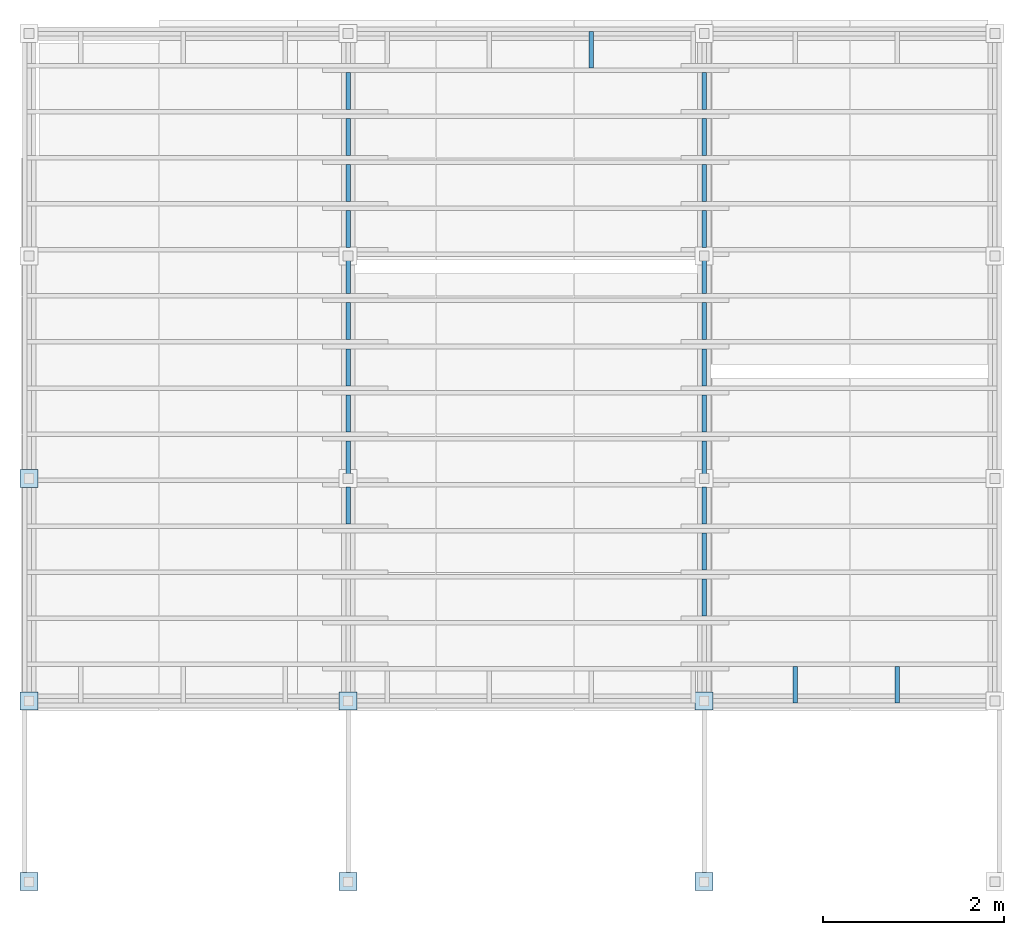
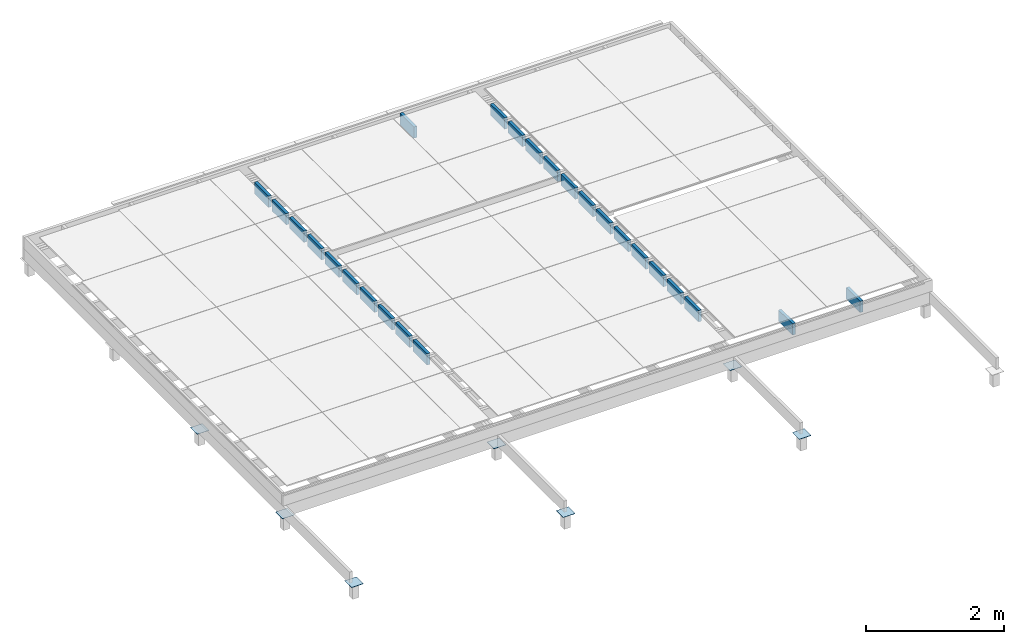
# One storey, part 2 of 5: 25 beams, 7 slabs, 7 elements without a shape of their own.
"""IFC4 building model written with IfcOpenShell, lengths in millimetres."""

from ifc_helpers import new_model, si_unit, derived_unit, frame, origin_with_axes, place, context, subcontext, project, spatial, polygons, source, transform, mapped, material, constituent, constituent_set, type_object, element, aggregate, save


model = new_model("IFC4")

# Units and contexts
model_context = context("Model", 3, precision=1e-06, world=origin_with_axes())
body_context = subcontext(model_context, "Body", "Model", "MODEL_VIEW")
ifc_project = project(units=[si_unit("LENGTHUNIT", "METRE", prefix="MILLI"), si_unit("AREAUNIT", "SQUARE_METRE"), si_unit("VOLUMEUNIT", "CUBIC_METRE"), si_unit("MASSUNIT", "GRAM", prefix="KILO"), si_unit("ELECTRICVOLTAGEUNIT", "VOLT", prefix="KILO"), si_unit("THERMODYNAMICTEMPERATUREUNIT", "DEGREE_CELSIUS"), si_unit("PRESSUREUNIT", "PASCAL", prefix="MEGA"), si_unit("PLANEANGLEUNIT", "RADIAN"), derived_unit("THERMALCONDUCTANCEUNIT", [(si_unit("POWERUNIT", "WATT"), 1), (si_unit("LENGTHUNIT", "METRE"), -1), (si_unit("THERMODYNAMICTEMPERATUREUNIT", "KELVIN"), -1)]), derived_unit("MASSDENSITYUNIT", [(si_unit("MASSUNIT", "GRAM", prefix="KILO"), 1), (si_unit("VOLUMEUNIT", "CUBIC_METRE"), -1)])], contexts=[model_context])

# Site, building, storey
site_placement = place(None, origin_with_axes())
site = spatial("IfcSite", under=ifc_project, at=site_placement, CompositionType="ELEMENT")
building_placement = place(site_placement, origin_with_axes())
building = spatial("IfcBuilding", under=site, at=building_placement, CompositionType="ELEMENT")
storey_placement = place(building_placement, origin_with_axes())
storey = spatial("IfcBuildingStorey", under=building, at=storey_placement, Name="Ниже 0.00", CompositionType="ELEMENT", Elevation=0.0)

# Beams
ifc_material_1 = material(Name="Древесина зел")
beam_type = type_object("IfcBeamType", Name="Доска 50х200", PredefinedType="BEAM")
shared_shape_1 = source(origin_with_axes(), body_context, "Body", "Tessellation", [
    polygons([(9665.000000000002, 454.99999999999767, -2e-15), (9665.000000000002, 454.99999999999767, -200.0), (9665.000000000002, 50.000000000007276, -200.0), (9665.000000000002, 50.000000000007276, -2e-15), (9715.000000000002, 454.9999999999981, 1e-15), (9715.000000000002, 50.000000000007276, 2e-15), (9715.000000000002, 454.99999999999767, -200.0), (9715.000000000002, 50.000000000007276, -200.0)], [[[1, 2, 3, 4]], [[5, 1, 4, 6]], [[7, 5, 6, 8]], [[2, 7, 8, 3]], [[7, 2, 1, 5]], [[3, 8, 6, 4]]], closed=True),
])
beam_1_placement = place(storey_placement, frame((9690.000000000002, 454.9999999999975, 0.0), z_axis=(0.0, 1.0, 0.0), x_axis=(0.0, 0.0, 1.0)))
element("IfcBeam", 1, at=beam_1_placement, inside=storey, type_object=beam_type, material=ifc_material_1, Name="Балка - Доска 50х200", context=body_context, shape_type="MappedRepresentation", body=[
    mapped(shared_shape_1, transform((5.93e-13, -9690.000000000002, -454.9999999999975), x_axis=(0.0, 1.0, 0.0), y_axis=(0.0, 0.0, 1.0), z_axis=(1.0, 0.0, 0.0), scale=1.0)),
])
shared_shape_2 = source(origin_with_axes(), body_context, "Body", "Tessellation", [
    polygons([(8535.000000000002, 454.99999999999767, -2e-15), (8535.000000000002, 454.99999999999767, -200.0), (8535.000000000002, 50.000000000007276, -200.0), (8535.000000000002, 50.000000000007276, -2e-15), (8585.000000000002, 454.9999999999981, 1e-15), (8585.000000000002, 50.000000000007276, 2e-15), (8585.000000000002, 454.99999999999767, -200.0), (8585.000000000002, 50.000000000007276, -200.0)], [[[1, 2, 3, 4]], [[5, 1, 4, 6]], [[7, 5, 6, 8]], [[2, 7, 8, 3]], [[7, 2, 1, 5]], [[3, 8, 6, 4]]], closed=True),
])
beam_2_placement = place(storey_placement, frame((8560.000000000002, 454.9999999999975, 0.0), z_axis=(0.0, 1.0, 0.0), x_axis=(0.0, 0.0, 1.0)))
element("IfcBeam", 2, at=beam_2_placement, inside=storey, type_object=beam_type, material=ifc_material_1, Name="Балка - Доска 50х200", context=body_context, shape_type="MappedRepresentation", body=[
    mapped(shared_shape_2, transform((5.24e-13, -8560.000000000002, -454.9999999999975), x_axis=(0.0, 1.0, 0.0), y_axis=(0.0, 0.0, 1.0), z_axis=(1.0, 0.0, 0.0), scale=1.0)),
])
shared_shape_3 = source(origin_with_axes(), body_context, "Body", "Tessellation", [
    polygons([(25.0, -200.0, 0.0), (-25.0, -200.0, 0.0), (-25.0, -200.0, -404.9999999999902), (25.0, -200.0, -404.9999999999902), (-25.0, 2e-15, 0.0), (-25.0, 2e-15, -404.9999999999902), (25.0, -2e-15, 0.0), (25.0, -2e-15, -404.9999999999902)], [[[1, 2, 3, 4]], [[2, 5, 6, 3]], [[5, 7, 8, 6]], [[7, 1, 4, 8]], [[4, 3, 6, 8]], [[1, 7, 5, 2]]], closed=True),
])
beam_3_placement = place(storey_placement, frame((6300.000000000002, 7489.999999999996, 0.0), z_axis=(0.0, 1.0, 0.0), x_axis=(0.0, 0.0, 1.0)))
element("IfcBeam", 3, at=beam_3_placement, inside=storey, type_object=beam_type, material=ifc_material_1, Name="Балка - Доска 50х200", context=body_context, shape_type="MappedRepresentation", body=[
    mapped(shared_shape_3, transform((0.0, 0.0, 0.0), x_axis=(0.0, -1.0, 0.0), y_axis=(1.0, 0.0, 0.0), z_axis=(0.0, 0.0, 1.0), scale=1.0)),
])
shared_shape_4 = source(origin_with_axes(), body_context, "Body", "Tessellation", [
    polygons([(7525.0000000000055, 7034.999999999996, -2e-15), (7525.0000000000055, 7034.999999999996, -200.0), (7525.0000000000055, 6624.999999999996, -200.0), (7525.0000000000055, 6624.999999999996, -2e-15), (7575.0000000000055, 7034.999999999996, 1e-15), (7575.0000000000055, 6624.999999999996, 2e-15), (7575.0000000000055, 7034.999999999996, -200.0), (7575.0000000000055, 6624.999999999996, -200.0)], [[[1, 2, 3, 4]], [[5, 1, 4, 6]], [[7, 5, 6, 8]], [[2, 7, 8, 3]], [[7, 2, 1, 5]], [[3, 8, 6, 4]]], closed=True),
])
beam_4_placement = place(storey_placement, frame((7550.0000000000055, 7034.999999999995, 2e-15), z_axis=(0.0, 1.0, 0.0), x_axis=(0.0, 0.0, 1.0)))
element("IfcBeam", 4, at=beam_4_placement, inside=storey, type_object=beam_type, material=ifc_material_1, Name="Балка - Доска 50х200", context=body_context, shape_type="MappedRepresentation", body=[
    mapped(shared_shape_4, transform((4.87e-13, -7550.0000000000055, -7034.999999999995), x_axis=(0.0, 1.0, 0.0), y_axis=(0.0, 0.0, 1.0), z_axis=(1.0, 0.0, 0.0), scale=1.0)),
])
shared_shape_5 = source(origin_with_axes(), body_context, "Body", "Tessellation", [
    polygons([(3582.5000000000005, 7034.999999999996, -3e-15), (3582.5000000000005, 7034.999999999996, -200.0), (3582.5000000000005, 6624.999999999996, -200.0), (3582.5000000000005, 6624.999999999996, -2e-15), (3632.5000000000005, 7034.999999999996, 0.0), (3632.5000000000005, 6624.999999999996, 2e-15), (3632.5000000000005, 7034.999999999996, -200.0), (3632.5000000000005, 6624.999999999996, -200.0)], [[[1, 2, 3, 4]], [[5, 1, 4, 6]], [[7, 5, 6, 8]], [[2, 7, 8, 3]], [[7, 2, 1, 5]], [[3, 8, 6, 4]]], closed=True),
])
beam_5_placement = place(storey_placement, frame((3607.5000000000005, 7034.999999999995, 0.0), z_axis=(0.0, 1.0, 0.0), x_axis=(0.0, 0.0, 1.0)))
element("IfcBeam", 5, at=beam_5_placement, inside=storey, type_object=beam_type, material=ifc_material_1, Name="Балка - Доска 50х200", context=body_context, shape_type="MappedRepresentation", body=[
    mapped(shared_shape_5, transform((2.21e-13, -3607.5000000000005, -7034.999999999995), x_axis=(0.0, 1.0, 0.0), y_axis=(0.0, 0.0, 1.0), z_axis=(1.0, 0.0, 0.0), scale=1.0)),
])
shared_shape_6 = source(origin_with_axes(), body_context, "Body", "Tessellation", [
    polygons([(7525.0000000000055, 6524.999999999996, -2e-15), (7525.0000000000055, 6524.999999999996, -200.0), (7525.0000000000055, 6114.999999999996, -200.0), (7525.0000000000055, 6114.999999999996, -2e-15), (7575.0000000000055, 6524.999999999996, 1e-15), (7575.0000000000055, 6114.999999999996, 2e-15), (7575.0000000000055, 6524.999999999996, -200.0), (7575.0000000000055, 6114.999999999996, -200.0)], [[[1, 2, 3, 4]], [[5, 1, 4, 6]], [[7, 5, 6, 8]], [[2, 7, 8, 3]], [[7, 2, 1, 5]], [[3, 8, 6, 4]]], closed=True),
])
beam_6_placement = place(storey_placement, frame((7550.0000000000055, 6524.999999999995, 2e-15), z_axis=(0.0, 1.0, 0.0), x_axis=(0.0, 0.0, 1.0)))
element("IfcBeam", 6, at=beam_6_placement, inside=storey, type_object=beam_type, material=ifc_material_1, Name="Балка - Доска 50х200", context=body_context, shape_type="MappedRepresentation", body=[
    mapped(shared_shape_6, transform((4.85e-13, -7550.0000000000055, -6524.999999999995), x_axis=(0.0, 1.0, 0.0), y_axis=(0.0, 0.0, 1.0), z_axis=(1.0, 0.0, 0.0), scale=1.0)),
])
shared_shape_7 = source(origin_with_axes(), body_context, "Body", "Tessellation", [
    polygons([(3582.5000000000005, 6524.999999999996, -3e-15), (3582.5000000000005, 6524.999999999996, -200.0), (3582.5000000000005, 6114.999999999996, -200.0), (3582.5000000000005, 6114.999999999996, -2e-15), (3632.5000000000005, 6524.999999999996, 0.0), (3632.5000000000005, 6114.999999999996, 2e-15), (3632.5000000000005, 6524.999999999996, -200.0), (3632.5000000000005, 6114.999999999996, -200.0)], [[[1, 2, 3, 4]], [[5, 1, 4, 6]], [[7, 5, 6, 8]], [[2, 7, 8, 3]], [[7, 2, 1, 5]], [[3, 8, 6, 4]]], closed=True),
])
beam_7_placement = place(storey_placement, frame((3607.5000000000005, 6524.999999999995, 0.0), z_axis=(0.0, 1.0, 0.0), x_axis=(0.0, 0.0, 1.0)))
element("IfcBeam", 7, at=beam_7_placement, inside=storey, type_object=beam_type, material=ifc_material_1, Name="Балка - Доска 50х200", context=body_context, shape_type="MappedRepresentation", body=[
    mapped(shared_shape_7, transform((2.21e-13, -3607.5000000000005, -6524.999999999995), x_axis=(0.0, 1.0, 0.0), y_axis=(0.0, 0.0, 1.0), z_axis=(1.0, 0.0, 0.0), scale=1.0)),
])
shared_shape_8 = source(origin_with_axes(), body_context, "Body", "Tessellation", [
    polygons([(7525.0000000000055, 6014.999999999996, -2e-15), (7525.0000000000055, 6014.999999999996, -200.0), (7525.0000000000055, 5604.999999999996, -200.0), (7525.0000000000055, 5604.999999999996, -2e-15), (7575.0000000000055, 6014.999999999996, 1e-15), (7575.0000000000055, 5604.999999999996, 2e-15), (7575.0000000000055, 6014.999999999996, -200.0), (7575.0000000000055, 5604.999999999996, -200.0)], [[[1, 2, 3, 4]], [[5, 1, 4, 6]], [[7, 5, 6, 8]], [[2, 7, 8, 3]], [[7, 2, 1, 5]], [[3, 8, 6, 4]]], closed=True),
])
beam_8_placement = place(storey_placement, frame((7550.0000000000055, 6014.999999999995, 2e-15), z_axis=(0.0, 1.0, 0.0), x_axis=(0.0, 0.0, 1.0)))
element("IfcBeam", 8, at=beam_8_placement, inside=storey, type_object=beam_type, material=ifc_material_1, Name="Балка - Доска 50х200", context=body_context, shape_type="MappedRepresentation", body=[
    mapped(shared_shape_8, transform((4.83e-13, -7550.0000000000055, -6014.999999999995), x_axis=(0.0, 1.0, 0.0), y_axis=(0.0, 0.0, 1.0), z_axis=(1.0, 0.0, 0.0), scale=1.0)),
])
shared_shape_9 = source(origin_with_axes(), body_context, "Body", "Tessellation", [
    polygons([(3582.5000000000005, 6014.999999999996, -3e-15), (3582.5000000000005, 6014.999999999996, -200.0), (3582.5000000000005, 5604.999999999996, -200.0), (3582.5000000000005, 5604.999999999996, -2e-15), (3632.5000000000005, 6014.999999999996, 0.0), (3632.5000000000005, 5604.999999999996, 2e-15), (3632.5000000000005, 6014.999999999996, -200.0), (3632.5000000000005, 5604.999999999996, -200.0)], [[[1, 2, 3, 4]], [[5, 1, 4, 6]], [[7, 5, 6, 8]], [[2, 7, 8, 3]], [[7, 2, 1, 5]], [[3, 8, 6, 4]]], closed=True),
])
beam_9_placement = place(storey_placement, frame((3607.5000000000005, 6014.999999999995, 0.0), z_axis=(0.0, 1.0, 0.0), x_axis=(0.0, 0.0, 1.0)))
element("IfcBeam", 9, at=beam_9_placement, inside=storey, type_object=beam_type, material=ifc_material_1, Name="Балка - Доска 50х200", context=body_context, shape_type="MappedRepresentation", body=[
    mapped(shared_shape_9, transform((2.21e-13, -3607.5000000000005, -6014.999999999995), x_axis=(0.0, 1.0, 0.0), y_axis=(0.0, 0.0, 1.0), z_axis=(1.0, 0.0, 0.0), scale=1.0)),
])
shared_shape_10 = source(origin_with_axes(), body_context, "Body", "Tessellation", [
    polygons([(7525.0000000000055, 5504.999999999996, -2e-15), (7525.0000000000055, 5504.999999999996, -200.0), (7525.0000000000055, 5094.999999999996, -200.0), (7525.0000000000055, 5094.999999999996, -2e-15), (7575.0000000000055, 5504.999999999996, 1e-15), (7575.0000000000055, 5094.999999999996, 2e-15), (7575.0000000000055, 5504.999999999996, -200.0), (7575.0000000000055, 5094.999999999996, -200.0)], [[[1, 2, 3, 4]], [[5, 1, 4, 6]], [[7, 5, 6, 8]], [[2, 7, 8, 3]], [[7, 2, 1, 5]], [[3, 8, 6, 4]]], closed=True),
])
beam_10_placement = place(storey_placement, frame((7550.0000000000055, 5504.999999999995, 2e-15), z_axis=(0.0, 1.0, 0.0), x_axis=(0.0, 0.0, 1.0)))
element("IfcBeam", 10, at=beam_10_placement, inside=storey, type_object=beam_type, material=ifc_material_1, Name="Балка - Доска 50х200", context=body_context, shape_type="MappedRepresentation", body=[
    mapped(shared_shape_10, transform((4.81e-13, -7550.0000000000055, -5504.999999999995), x_axis=(0.0, 1.0, 0.0), y_axis=(0.0, 0.0, 1.0), z_axis=(1.0, 0.0, 0.0), scale=1.0)),
])
shared_shape_11 = source(origin_with_axes(), body_context, "Body", "Tessellation", [
    polygons([(3582.5000000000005, 5504.999999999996, -3e-15), (3582.5000000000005, 5504.999999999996, -200.0), (3582.5000000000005, 5094.999999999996, -200.0), (3582.5000000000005, 5094.999999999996, -2e-15), (3632.5000000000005, 5504.999999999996, 0.0), (3632.5000000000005, 5094.999999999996, 2e-15), (3632.5000000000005, 5504.999999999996, -200.0), (3632.5000000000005, 5094.999999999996, -200.0)], [[[1, 2, 3, 4]], [[5, 1, 4, 6]], [[7, 5, 6, 8]], [[2, 7, 8, 3]], [[7, 2, 1, 5]], [[3, 8, 6, 4]]], closed=True),
])
beam_11_placement = place(storey_placement, frame((3607.5000000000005, 5504.999999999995, 0.0), z_axis=(0.0, 1.0, 0.0), x_axis=(0.0, 0.0, 1.0)))
element("IfcBeam", 11, at=beam_11_placement, inside=storey, type_object=beam_type, material=ifc_material_1, Name="Балка - Доска 50х200", context=body_context, shape_type="MappedRepresentation", body=[
    mapped(shared_shape_11, transform((2.21e-13, -3607.5000000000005, -5504.999999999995), x_axis=(0.0, 1.0, 0.0), y_axis=(0.0, 0.0, 1.0), z_axis=(1.0, 0.0, 0.0), scale=1.0)),
])
shared_shape_12 = source(origin_with_axes(), body_context, "Body", "Tessellation", [
    polygons([(7525.0000000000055, 4994.999999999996, -2e-15), (7525.0000000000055, 4994.999999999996, -200.0), (7525.0000000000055, 4584.999999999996, -200.0), (7525.0000000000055, 4584.999999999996, -2e-15), (7575.0000000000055, 4994.999999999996, 1e-15), (7575.0000000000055, 4584.999999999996, 2e-15), (7575.0000000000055, 4994.999999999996, -200.0), (7575.0000000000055, 4584.999999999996, -200.0)], [[[1, 2, 3, 4]], [[5, 1, 4, 6]], [[7, 5, 6, 8]], [[2, 7, 8, 3]], [[7, 2, 1, 5]], [[3, 8, 6, 4]]], closed=True),
])
beam_12_placement = place(storey_placement, frame((7550.0000000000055, 4994.999999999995, 2e-15), z_axis=(0.0, 1.0, 0.0), x_axis=(0.0, 0.0, 1.0)))
element("IfcBeam", 12, at=beam_12_placement, inside=storey, type_object=beam_type, material=ifc_material_1, Name="Балка - Доска 50х200", context=body_context, shape_type="MappedRepresentation", body=[
    mapped(shared_shape_12, transform((4.79e-13, -7550.0000000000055, -4994.999999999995), x_axis=(0.0, 1.0, 0.0), y_axis=(0.0, 0.0, 1.0), z_axis=(1.0, 0.0, 0.0), scale=1.0)),
])
shared_shape_13 = source(origin_with_axes(), body_context, "Body", "Tessellation", [
    polygons([(3582.5000000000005, 4994.999999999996, -3e-15), (3582.5000000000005, 4994.999999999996, -200.0), (3582.5000000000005, 4584.999999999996, -200.0), (3582.5000000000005, 4584.999999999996, -2e-15), (3632.5000000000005, 4994.999999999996, 0.0), (3632.5000000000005, 4584.999999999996, 2e-15), (3632.5000000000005, 4994.999999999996, -200.0), (3632.5000000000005, 4584.999999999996, -200.0)], [[[1, 2, 3, 4]], [[5, 1, 4, 6]], [[7, 5, 6, 8]], [[2, 7, 8, 3]], [[7, 2, 1, 5]], [[3, 8, 6, 4]]], closed=True),
])
beam_13_placement = place(storey_placement, frame((3607.5000000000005, 4994.999999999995, 0.0), z_axis=(0.0, 1.0, 0.0), x_axis=(0.0, 0.0, 1.0)))
element("IfcBeam", 13, at=beam_13_placement, inside=storey, type_object=beam_type, material=ifc_material_1, Name="Балка - Доска 50х200", context=body_context, shape_type="MappedRepresentation", body=[
    mapped(shared_shape_13, transform((2.21e-13, -3607.5000000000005, -4994.999999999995), x_axis=(0.0, 1.0, 0.0), y_axis=(0.0, 0.0, 1.0), z_axis=(1.0, 0.0, 0.0), scale=1.0)),
])
shared_shape_14 = source(origin_with_axes(), body_context, "Body", "Tessellation", [
    polygons([(7525.0000000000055, 4484.999999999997, -2e-15), (7525.0000000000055, 4484.999999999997, -200.0), (7525.0000000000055, 4074.9999999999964, -200.0), (7525.0000000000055, 4074.9999999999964, -2e-15), (7575.0000000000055, 4484.999999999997, 1e-15), (7575.0000000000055, 4074.9999999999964, 2e-15), (7575.0000000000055, 4484.999999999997, -200.0), (7575.0000000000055, 4074.9999999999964, -200.0)], [[[1, 2, 3, 4]], [[5, 1, 4, 6]], [[7, 5, 6, 8]], [[2, 7, 8, 3]], [[7, 2, 1, 5]], [[3, 8, 6, 4]]], closed=True),
])
beam_14_placement = place(storey_placement, frame((7550.0000000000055, 4484.999999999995, 2e-15), z_axis=(0.0, 1.0, 0.0), x_axis=(0.0, 0.0, 1.0)))
element("IfcBeam", 14, at=beam_14_placement, inside=storey, type_object=beam_type, material=ifc_material_1, Name="Балка - Доска 50х200", context=body_context, shape_type="MappedRepresentation", body=[
    mapped(shared_shape_14, transform((4.78e-13, -7550.0000000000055, -4484.999999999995), x_axis=(0.0, 1.0, 0.0), y_axis=(0.0, 0.0, 1.0), z_axis=(1.0, 0.0, 0.0), scale=1.0)),
])
shared_shape_15 = source(origin_with_axes(), body_context, "Body", "Tessellation", [
    polygons([(3582.5000000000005, 4484.999999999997, -3e-15), (3582.5000000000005, 4484.999999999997, -200.0), (3582.5000000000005, 4074.9999999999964, -200.0), (3582.5000000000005, 4074.9999999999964, -2e-15), (3632.5000000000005, 4484.999999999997, 0.0), (3632.5000000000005, 4074.9999999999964, 2e-15), (3632.5000000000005, 4484.999999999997, -200.0), (3632.5000000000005, 4074.9999999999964, -200.0)], [[[1, 2, 3, 4]], [[5, 1, 4, 6]], [[7, 5, 6, 8]], [[2, 7, 8, 3]], [[7, 2, 1, 5]], [[3, 8, 6, 4]]], closed=True),
])
beam_15_placement = place(storey_placement, frame((3607.5000000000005, 4484.999999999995, 0.0), z_axis=(0.0, 1.0, 0.0), x_axis=(0.0, 0.0, 1.0)))
element("IfcBeam", 15, at=beam_15_placement, inside=storey, type_object=beam_type, material=ifc_material_1, Name="Балка - Доска 50х200", context=body_context, shape_type="MappedRepresentation", body=[
    mapped(shared_shape_15, transform((2.21e-13, -3607.5000000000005, -4484.999999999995), x_axis=(0.0, 1.0, 0.0), y_axis=(0.0, 0.0, 1.0), z_axis=(1.0, 0.0, 0.0), scale=1.0)),
])
shared_shape_16 = source(origin_with_axes(), body_context, "Body", "Tessellation", [
    polygons([(7525.0000000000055, 3974.999999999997, -2e-15), (7525.0000000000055, 3974.999999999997, -200.0), (7525.0000000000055, 3564.9999999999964, -200.0), (7525.0000000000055, 3564.9999999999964, -2e-15), (7575.0000000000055, 3974.999999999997, 1e-15), (7575.0000000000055, 3564.9999999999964, 2e-15), (7575.0000000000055, 3974.999999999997, -200.0), (7575.0000000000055, 3564.9999999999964, -200.0)], [[[1, 2, 3, 4]], [[5, 1, 4, 6]], [[7, 5, 6, 8]], [[2, 7, 8, 3]], [[7, 2, 1, 5]], [[3, 8, 6, 4]]], closed=True),
])
beam_16_placement = place(storey_placement, frame((7550.0000000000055, 3974.9999999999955, 2e-15), z_axis=(0.0, 1.0, 0.0), x_axis=(0.0, 0.0, 1.0)))
element("IfcBeam", 16, at=beam_16_placement, inside=storey, type_object=beam_type, material=ifc_material_1, Name="Балка - Доска 50х200", context=body_context, shape_type="MappedRepresentation", body=[
    mapped(shared_shape_16, transform((4.76e-13, -7550.0000000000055, -3974.9999999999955), x_axis=(0.0, 1.0, 0.0), y_axis=(0.0, 0.0, 1.0), z_axis=(1.0, 0.0, 0.0), scale=1.0)),
])
shared_shape_17 = source(origin_with_axes(), body_context, "Body", "Tessellation", [
    polygons([(3582.5000000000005, 3974.999999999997, -3e-15), (3582.5000000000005, 3974.999999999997, -200.0), (3582.5000000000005, 3564.9999999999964, -200.0), (3582.5000000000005, 3564.9999999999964, -2e-15), (3632.5000000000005, 3974.999999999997, 0.0), (3632.5000000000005, 3564.9999999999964, 2e-15), (3632.5000000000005, 3974.999999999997, -200.0), (3632.5000000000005, 3564.9999999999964, -200.0)], [[[1, 2, 3, 4]], [[5, 1, 4, 6]], [[7, 5, 6, 8]], [[2, 7, 8, 3]], [[7, 2, 1, 5]], [[3, 8, 6, 4]]], closed=True),
])
beam_17_placement = place(storey_placement, frame((3607.5000000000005, 3974.9999999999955, 0.0), z_axis=(0.0, 1.0, 0.0), x_axis=(0.0, 0.0, 1.0)))
element("IfcBeam", 17, at=beam_17_placement, inside=storey, type_object=beam_type, material=ifc_material_1, Name="Балка - Доска 50х200", context=body_context, shape_type="MappedRepresentation", body=[
    mapped(shared_shape_17, transform((2.21e-13, -3607.5000000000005, -3974.9999999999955), x_axis=(0.0, 1.0, 0.0), y_axis=(0.0, 0.0, 1.0), z_axis=(1.0, 0.0, 0.0), scale=1.0)),
])
shared_shape_18 = source(origin_with_axes(), body_context, "Body", "Tessellation", [
    polygons([(7525.0000000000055, 3464.999999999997, -2e-15), (7525.0000000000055, 3464.999999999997, -200.0), (7525.0000000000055, 3054.9999999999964, -200.0), (7525.0000000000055, 3054.9999999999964, -2e-15), (7575.0000000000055, 3464.999999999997, 1e-15), (7575.0000000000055, 3054.9999999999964, 2e-15), (7575.0000000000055, 3464.999999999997, -200.0), (7575.0000000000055, 3054.9999999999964, -200.0)], [[[1, 2, 3, 4]], [[5, 1, 4, 6]], [[7, 5, 6, 8]], [[2, 7, 8, 3]], [[7, 2, 1, 5]], [[3, 8, 6, 4]]], closed=True),
])
beam_18_placement = place(storey_placement, frame((7550.0000000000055, 3464.9999999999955, 2e-15), z_axis=(0.0, 1.0, 0.0), x_axis=(0.0, 0.0, 1.0)))
element("IfcBeam", 18, at=beam_18_placement, inside=storey, type_object=beam_type, material=ifc_material_1, Name="Балка - Доска 50х200", context=body_context, shape_type="MappedRepresentation", body=[
    mapped(shared_shape_18, transform((4.74e-13, -7550.0000000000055, -3464.9999999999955), x_axis=(0.0, 1.0, 0.0), y_axis=(0.0, 0.0, 1.0), z_axis=(1.0, 0.0, 0.0), scale=1.0)),
])
shared_shape_19 = source(origin_with_axes(), body_context, "Body", "Tessellation", [
    polygons([(3582.5000000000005, 3464.999999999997, -3e-15), (3582.5000000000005, 3464.999999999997, -200.0), (3582.5000000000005, 3054.9999999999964, -200.0), (3582.5000000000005, 3054.9999999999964, -2e-15), (3632.5000000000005, 3464.999999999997, 0.0), (3632.5000000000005, 3054.9999999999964, 2e-15), (3632.5000000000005, 3464.999999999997, -200.0), (3632.5000000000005, 3054.9999999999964, -200.0)], [[[1, 2, 3, 4]], [[5, 1, 4, 6]], [[7, 5, 6, 8]], [[2, 7, 8, 3]], [[7, 2, 1, 5]], [[3, 8, 6, 4]]], closed=True),
])
beam_19_placement = place(storey_placement, frame((3607.5000000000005, 3464.9999999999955, 0.0), z_axis=(0.0, 1.0, 0.0), x_axis=(0.0, 0.0, 1.0)))
element("IfcBeam", 19, at=beam_19_placement, inside=storey, type_object=beam_type, material=ifc_material_1, Name="Балка - Доска 50х200", context=body_context, shape_type="MappedRepresentation", body=[
    mapped(shared_shape_19, transform((2.21e-13, -3607.5000000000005, -3464.9999999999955), x_axis=(0.0, 1.0, 0.0), y_axis=(0.0, 0.0, 1.0), z_axis=(1.0, 0.0, 0.0), scale=1.0)),
])
shared_shape_20 = source(origin_with_axes(), body_context, "Body", "Tessellation", [
    polygons([(7525.0000000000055, 2954.999999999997, -2e-15), (7525.0000000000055, 2954.999999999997, -200.0), (7525.0000000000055, 2544.9999999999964, -200.0), (7525.0000000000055, 2544.9999999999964, -2e-15), (7575.0000000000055, 2954.999999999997, 1e-15), (7575.0000000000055, 2544.9999999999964, 2e-15), (7575.0000000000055, 2954.999999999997, -200.0), (7575.0000000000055, 2544.9999999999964, -200.0)], [[[1, 2, 3, 4]], [[5, 1, 4, 6]], [[7, 5, 6, 8]], [[2, 7, 8, 3]], [[7, 2, 1, 5]], [[3, 8, 6, 4]]], closed=True),
])
beam_20_placement = place(storey_placement, frame((7550.0000000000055, 2954.9999999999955, 2e-15), z_axis=(0.0, 1.0, 0.0), x_axis=(0.0, 0.0, 1.0)))
element("IfcBeam", 20, at=beam_20_placement, inside=storey, type_object=beam_type, material=ifc_material_1, Name="Балка - Доска 50х200", context=body_context, shape_type="MappedRepresentation", body=[
    mapped(shared_shape_20, transform((4.72e-13, -7550.0000000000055, -2954.9999999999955), x_axis=(0.0, 1.0, 0.0), y_axis=(0.0, 0.0, 1.0), z_axis=(1.0, 0.0, 0.0), scale=1.0)),
])
shared_shape_21 = source(origin_with_axes(), body_context, "Body", "Tessellation", [
    polygons([(3582.5000000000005, 2954.999999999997, -3e-15), (3582.5000000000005, 2954.999999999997, -200.0), (3582.5000000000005, 2544.9999999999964, -200.0), (3582.5000000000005, 2544.9999999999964, -2e-15), (3632.5000000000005, 2954.999999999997, 0.0), (3632.5000000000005, 2544.9999999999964, 2e-15), (3632.5000000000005, 2954.999999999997, -200.0), (3632.5000000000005, 2544.9999999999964, -200.0)], [[[1, 2, 3, 4]], [[5, 1, 4, 6]], [[7, 5, 6, 8]], [[2, 7, 8, 3]], [[7, 2, 1, 5]], [[3, 8, 6, 4]]], closed=True),
])
beam_21_placement = place(storey_placement, frame((3607.5000000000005, 2954.9999999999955, 0.0), z_axis=(0.0, 1.0, 0.0), x_axis=(0.0, 0.0, 1.0)))
element("IfcBeam", 21, at=beam_21_placement, inside=storey, type_object=beam_type, material=ifc_material_1, Name="Балка - Доска 50х200", context=body_context, shape_type="MappedRepresentation", body=[
    mapped(shared_shape_21, transform((2.21e-13, -3607.5000000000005, -2954.9999999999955), x_axis=(0.0, 1.0, 0.0), y_axis=(0.0, 0.0, 1.0), z_axis=(1.0, 0.0, 0.0), scale=1.0)),
])
shared_shape_22 = source(origin_with_axes(), body_context, "Body", "Tessellation", [
    polygons([(7525.0000000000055, 2444.999999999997, -2e-15), (7525.0000000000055, 2444.999999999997, -200.0), (7525.0000000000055, 2034.9999999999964, -200.0), (7525.0000000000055, 2034.9999999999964, -2e-15), (7575.0000000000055, 2444.999999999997, 1e-15), (7575.0000000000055, 2034.9999999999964, 2e-15), (7575.0000000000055, 2444.999999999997, -200.0), (7575.0000000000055, 2034.9999999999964, -200.0)], [[[1, 2, 3, 4]], [[5, 1, 4, 6]], [[7, 5, 6, 8]], [[2, 7, 8, 3]], [[7, 2, 1, 5]], [[3, 8, 6, 4]]], closed=True),
])
beam_22_placement = place(storey_placement, frame((7550.0000000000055, 2444.9999999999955, 2e-15), z_axis=(0.0, 1.0, 0.0), x_axis=(0.0, 0.0, 1.0)))
element("IfcBeam", 22, at=beam_22_placement, inside=storey, type_object=beam_type, material=ifc_material_1, Name="Балка - Доска 50х200", context=body_context, shape_type="MappedRepresentation", body=[
    mapped(shared_shape_22, transform((4.7e-13, -7550.0000000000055, -2444.9999999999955), x_axis=(0.0, 1.0, 0.0), y_axis=(0.0, 0.0, 1.0), z_axis=(1.0, 0.0, 0.0), scale=1.0)),
])
shared_shape_23 = source(origin_with_axes(), body_context, "Body", "Tessellation", [
    polygons([(3582.5000000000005, 2444.999999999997, -3e-15), (3582.5000000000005, 2444.999999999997, -200.0), (3582.5000000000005, 2034.9999999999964, -200.0), (3582.5000000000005, 2034.9999999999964, -2e-15), (3632.5000000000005, 2444.999999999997, 0.0), (3632.5000000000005, 2034.9999999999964, 2e-15), (3632.5000000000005, 2444.999999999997, -200.0), (3632.5000000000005, 2034.9999999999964, -200.0)], [[[1, 2, 3, 4]], [[5, 1, 4, 6]], [[7, 5, 6, 8]], [[2, 7, 8, 3]], [[7, 2, 1, 5]], [[3, 8, 6, 4]]], closed=True),
])
beam_23_placement = place(storey_placement, frame((3607.5000000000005, 2444.9999999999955, 0.0), z_axis=(0.0, 1.0, 0.0), x_axis=(0.0, 0.0, 1.0)))
element("IfcBeam", 23, at=beam_23_placement, inside=storey, type_object=beam_type, material=ifc_material_1, Name="Балка - Доска 50х200", context=body_context, shape_type="MappedRepresentation", body=[
    mapped(shared_shape_23, transform((2.21e-13, -3607.5000000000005, -2444.9999999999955), x_axis=(0.0, 1.0, 0.0), y_axis=(0.0, 0.0, 1.0), z_axis=(1.0, 0.0, 0.0), scale=1.0)),
])
shared_shape_24 = source(origin_with_axes(), body_context, "Body", "Tessellation", [
    polygons([(7525.0000000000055, 1934.999999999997, -2e-15), (7525.0000000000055, 1934.999999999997, -200.0), (7525.0000000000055, 1524.9999999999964, -200.0), (7525.0000000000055, 1524.9999999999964, -2e-15), (7575.0000000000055, 1934.999999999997, 1e-15), (7575.0000000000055, 1524.9999999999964, 2e-15), (7575.0000000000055, 1934.999999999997, -200.0), (7575.0000000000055, 1524.9999999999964, -200.0)], [[[1, 2, 3, 4]], [[5, 1, 4, 6]], [[7, 5, 6, 8]], [[2, 7, 8, 3]], [[7, 2, 1, 5]], [[3, 8, 6, 4]]], closed=True),
])
beam_24_placement = place(storey_placement, frame((7550.0000000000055, 1934.9999999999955, 2e-15), z_axis=(0.0, 1.0, 0.0), x_axis=(0.0, 0.0, 1.0)))
element("IfcBeam", 24, at=beam_24_placement, inside=storey, type_object=beam_type, material=ifc_material_1, Name="Балка - Доска 50х200", context=body_context, shape_type="MappedRepresentation", body=[
    mapped(shared_shape_24, transform((4.68e-13, -7550.0000000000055, -1934.9999999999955), x_axis=(0.0, 1.0, 0.0), y_axis=(0.0, 0.0, 1.0), z_axis=(1.0, 0.0, 0.0), scale=1.0)),
])
shared_shape_25 = source(origin_with_axes(), body_context, "Body", "Tessellation", [
    polygons([(7525.0000000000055, 1424.999999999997, -2e-15), (7525.0000000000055, 1424.999999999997, -200.0), (7525.0000000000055, 1014.9999999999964, -200.0), (7525.0000000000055, 1014.9999999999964, -2e-15), (7575.0000000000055, 1424.999999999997, 1e-15), (7575.0000000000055, 1014.9999999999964, 2e-15), (7575.0000000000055, 1424.999999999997, -200.0), (7575.0000000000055, 1014.9999999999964, -200.0)], [[[1, 2, 3, 4]], [[5, 1, 4, 6]], [[7, 5, 6, 8]], [[2, 7, 8, 3]], [[7, 2, 1, 5]], [[3, 8, 6, 4]]], closed=True),
])
beam_25_placement = place(storey_placement, frame((7550.0000000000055, 1424.9999999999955, 2e-15), z_axis=(0.0, 1.0, 0.0), x_axis=(0.0, 0.0, 1.0)))
element("IfcBeam", 25, at=beam_25_placement, inside=storey, type_object=beam_type, material=ifc_material_1, Name="Балка - Доска 50х200", context=body_context, shape_type="MappedRepresentation", body=[
    mapped(shared_shape_25, transform((4.66e-13, -7550.0000000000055, -1424.9999999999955), x_axis=(0.0, 1.0, 0.0), y_axis=(0.0, 0.0, 1.0), z_axis=(1.0, 0.0, 0.0), scale=1.0)),
])

# Assembly, slab
assembly_1_placement = place(storey_placement, frame((75.00000000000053, 75.00000000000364, -400.0), z_axis=(0.0, 0.0, 1.0), x_axis=(1.0, 0.0, 0.0)))
assembly_1 = element("IfcElementAssembly", 26, at=assembly_1_placement, inside=storey, Name="Сборка - Свая винтовая 107", PredefinedType="NOTDEFINED")
ifc_material_2 = material(Name="Сталь")
ifc_constituent = constituent(ifc_material_2, Name="Слой 1 - Сталь: 5,00 мм")
ifc_constituent_set = constituent_set(constituents=[ifc_constituent], Name="Металл")
shared_shape_26 = source(origin_with_axes(), body_context, "Body", "Tessellation", [
    polygons([(-100.0, -100.0, -5.0), (-100.0, 100.0, -5.0), (100.0, 100.0, -5.0), (100.0, -100.0, -5.0), (-100.0, -100.0, 0.0), (-100.0, 100.0, 0.0), (100.0, 100.0, 0.0), (100.0, -100.0, 0.0)], [[[1, 2, 3, 4]], [[2, 1, 5, 6]], [[3, 2, 6, 7]], [[4, 3, 7, 8]], [[1, 4, 8, 5]], [[5, 8, 7, 6]]], closed=True),
])
slab_1_placement = place(assembly_1_placement, frame((-100.0, -100.0, -5.0), z_axis=(0.0, 0.0, 1.0), x_axis=(0.0, 1.0, 0.0)))
slab_1 = element("IfcSlab", 27, at=slab_1_placement, material=ifc_constituent_set, Name="Перекрытие: 5,00 мм", PredefinedType="FLOOR", context=body_context, shape_type="MappedRepresentation", body=[
    mapped(shared_shape_26, transform((100.0, -100.0, 5.0), x_axis=(0.0, -1.0, 0.0), y_axis=(1.0, 0.0, 0.0), z_axis=(0.0, 0.0, 1.0), scale=1.0)),
])
aggregate(assembly_1, [slab_1])

assembly_2_placement = place(storey_placement, frame((75.00000000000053, 2538.0000000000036, -400.0), z_axis=(0.0, 0.0, 1.0), x_axis=(1.0, 0.0, 0.0)))
assembly_2 = element("IfcElementAssembly", 28, at=assembly_2_placement, inside=storey, Name="Сборка - Свая винтовая 107", PredefinedType="NOTDEFINED")
slab_2_placement = place(assembly_2_placement, frame((-100.0, -100.0, -5.0), z_axis=(0.0, 0.0, 1.0), x_axis=(0.0, 1.0, 0.0)))
slab_2 = element("IfcSlab", 29, at=slab_2_placement, material=ifc_constituent_set, Name="Перекрытие: 5,00 мм", PredefinedType="FLOOR", context=body_context, shape_type="MappedRepresentation", body=[
    mapped(shared_shape_26, transform((100.0, -100.0, 5.0), x_axis=(0.0, -1.0, 0.0), y_axis=(1.0, 0.0, 0.0), z_axis=(0.0, 0.0, 1.0), scale=1.0)),
])
aggregate(assembly_2, [slab_2])

assembly_3_placement = place(storey_placement, frame((3607.5, 75.0000000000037, -400.0), z_axis=(0.0, 0.0, 1.0), x_axis=(1.0, 0.0, 0.0)))
assembly_3 = element("IfcElementAssembly", 30, at=assembly_3_placement, inside=storey, Name="Сборка - Свая винтовая 107", PredefinedType="NOTDEFINED")
slab_3_placement = place(assembly_3_placement, frame((-100.0, -100.0, -5.0), z_axis=(0.0, 0.0, 1.0), x_axis=(0.0, 1.0, 0.0)))
slab_3 = element("IfcSlab", 31, at=slab_3_placement, material=ifc_constituent_set, Name="Перекрытие: 5,00 мм", PredefinedType="FLOOR", context=body_context, shape_type="MappedRepresentation", body=[
    mapped(shared_shape_26, transform((100.0, -100.0, 5.0), x_axis=(0.0, -1.0, 0.0), y_axis=(1.0, 0.0, 0.0), z_axis=(0.0, 0.0, 1.0), scale=1.0)),
])
aggregate(assembly_3, [slab_3])

assembly_4_placement = place(storey_placement, frame((7550.0000000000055, 75.0000000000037, -400.0), z_axis=(0.0, 0.0, 1.0), x_axis=(1.0, 0.0, 0.0)))
assembly_4 = element("IfcElementAssembly", 32, at=assembly_4_placement, inside=storey, Name="Сборка - Свая винтовая 107", PredefinedType="NOTDEFINED")
slab_4_placement = place(assembly_4_placement, frame((-100.0, -100.0, -5.0), z_axis=(0.0, 0.0, 1.0), x_axis=(0.0, 1.0, 0.0)))
slab_4 = element("IfcSlab", 33, at=slab_4_placement, material=ifc_constituent_set, Name="Перекрытие: 5,00 мм", PredefinedType="FLOOR", context=body_context, shape_type="MappedRepresentation", body=[
    mapped(shared_shape_26, transform((100.0, -100.0, 5.0), x_axis=(0.0, -1.0, 0.0), y_axis=(1.0, 0.0, 0.0), z_axis=(0.0, 0.0, 1.0), scale=1.0)),
])
aggregate(assembly_4, [slab_4])

assembly_5_placement = place(storey_placement, frame((75.00000000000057, -1925.0000000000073, -400.0), z_axis=(0.0, 0.0, 1.0), x_axis=(1.0, 0.0, 0.0)))
assembly_5 = element("IfcElementAssembly", 34, at=assembly_5_placement, inside=storey, Name="Сборка - Свая винтовая 107", PredefinedType="NOTDEFINED")
slab_5_placement = place(assembly_5_placement, frame((-100.0, -100.0, -5.0), z_axis=(0.0, 0.0, 1.0), x_axis=(0.0, 1.0, 0.0)))
slab_5 = element("IfcSlab", 35, at=slab_5_placement, material=ifc_constituent_set, Name="Перекрытие: 5,00 мм", PredefinedType="FLOOR", context=body_context, shape_type="MappedRepresentation", body=[
    mapped(shared_shape_26, transform((100.0, -100.0, 5.0), x_axis=(0.0, -1.0, 0.0), y_axis=(1.0, 0.0, 0.0), z_axis=(0.0, 0.0, 1.0), scale=1.0)),
])
aggregate(assembly_5, [slab_5])

assembly_6_placement = place(storey_placement, frame((3607.5, -1925.0000000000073, -400.0), z_axis=(0.0, 0.0, 1.0), x_axis=(1.0, 0.0, 0.0)))
assembly_6 = element("IfcElementAssembly", 36, at=assembly_6_placement, inside=storey, Name="Сборка - Свая винтовая 107", PredefinedType="NOTDEFINED")
slab_6_placement = place(assembly_6_placement, frame((-100.0, -100.0, -5.0), z_axis=(0.0, 0.0, 1.0), x_axis=(0.0, 1.0, 0.0)))
slab_6 = element("IfcSlab", 37, at=slab_6_placement, material=ifc_constituent_set, Name="Перекрытие: 5,00 мм", PredefinedType="FLOOR", context=body_context, shape_type="MappedRepresentation", body=[
    mapped(shared_shape_26, transform((100.0, -100.0, 5.0), x_axis=(0.0, -1.0, 0.0), y_axis=(1.0, 0.0, 0.0), z_axis=(0.0, 0.0, 1.0), scale=1.0)),
])
aggregate(assembly_6, [slab_6])

assembly_7_placement = place(storey_placement, frame((7550.0000000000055, -1925.0000000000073, -400.0), z_axis=(0.0, 0.0, 1.0), x_axis=(1.0, 0.0, 0.0)))
assembly_7 = element("IfcElementAssembly", 38, at=assembly_7_placement, inside=storey, Name="Сборка - Свая винтовая 107", PredefinedType="NOTDEFINED")
slab_7_placement = place(assembly_7_placement, frame((-100.0, -100.0, -5.0), z_axis=(0.0, 0.0, 1.0), x_axis=(0.0, 1.0, 0.0)))
slab_7 = element("IfcSlab", 39, at=slab_7_placement, material=ifc_constituent_set, Name="Перекрытие: 5,00 мм", PredefinedType="FLOOR", context=body_context, shape_type="MappedRepresentation", body=[
    mapped(shared_shape_26, transform((100.0, -100.0, 5.0), x_axis=(0.0, -1.0, 0.0), y_axis=(1.0, 0.0, 0.0), z_axis=(0.0, 0.0, 1.0), scale=1.0)),
])
aggregate(assembly_7, [slab_7])

save(model, "model.ifc")
